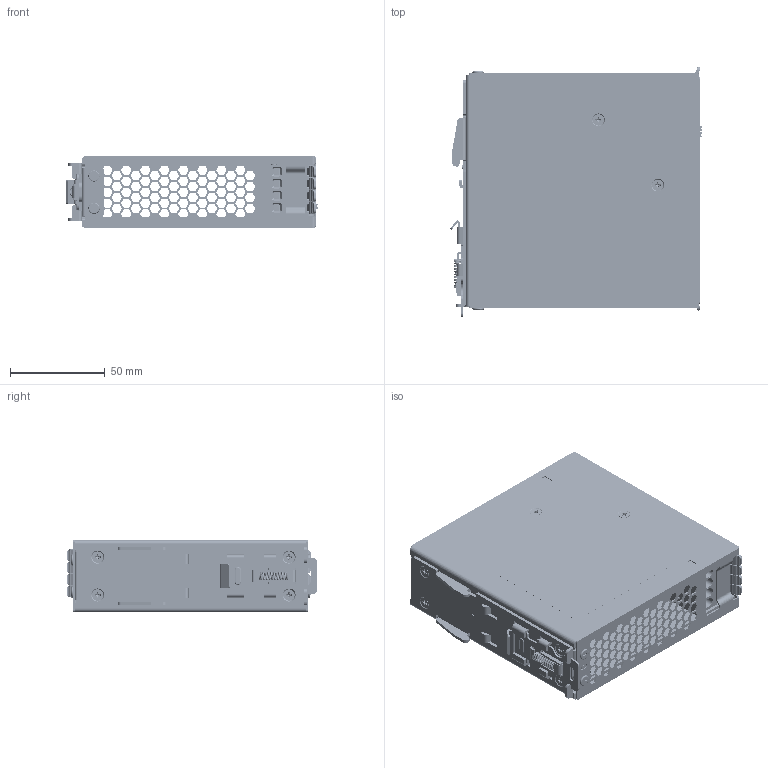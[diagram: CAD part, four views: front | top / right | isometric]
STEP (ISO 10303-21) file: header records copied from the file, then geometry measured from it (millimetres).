
FILE_DESCRIPTION((''),'2;1');
FILE_NAME('DRF-24V120W3GTA_ASM','2023-02-22T',('warud'),(''),'CREO PARAMETRIC BY PTC INC, 2015080','CREO PARAMETRIC BY PTC INC, 2015080','');
FILE_SCHEMA(('CONFIG_CONTROL_DESIGN'));
Products named in the file (36): 330840210206; 330848060102; PWB_MAINBOARD; INPUT_DCT-1994-1; MSBR-16_1_2; MSBR-15_1_2; MSBR-14_1_2; MSBR-13_1_2; MSBR-12_1_2; MSBR-11_1_2; MSBR-10_1_2; MSBR-9_1_2; MSBR-8_1_2; MSBR-3_1_2; MSBR-2_1_2; MSBR-1_1_2; MSBR-4_1_2; MSBR-7_1_2; MSBR-6_1_2; MSBR-5_1_2; 307036791G_4PIN_ASM; ASSY_INPUT_BOARD_SPRING_ASM; 307307817U; EE_LED_230025150601_GREEN; RES_VR-2; ASSY_MAINBOARD_ASM; 326820910000; 331067900202; 348730840000; 346202620000_SPRING; ASSY_LATCH_V1_ASM; 3265302300; 3105320000_L6; 3105039100; 3105220800_L5; DRF-24V120W3GTA_ASM
Assembly tree (51 placements, depth 5):
  DRF-24V120W3GTA_ASM
    330840210206
    330848060102
    ASSY_MAINBOARD_ASM
      PWB_MAINBOARD
      ASSY_INPUT_BOARD_SPRING_ASM
        INPUT_DCT-1994-1
        307036791G_4PIN_ASM  x2
          MSBR-16_1_2
          MSBR-15_1_2
          MSBR-14_1_2
          MSBR-13_1_2
          MSBR-12_1_2
          MSBR-11_1_2
          MSBR-10_1_2
          MSBR-9_1_2
          MSBR-8_1_2
          MSBR-3_1_2
          MSBR-2_1_2
          MSBR-1_1_2
          MSBR-4_1_2
          MSBR-7_1_2
          MSBR-6_1_2
          MSBR-5_1_2
      307307817U
      EE_LED_230025150601_GREEN
      RES_VR-2
    326820910000
    ASSY_LATCH_V1_ASM
      331067900202
      348730840000
      346202620000_SPRING
    3265302300
    3105320000_L6  x4
    3105039100  x4
    3105220800_L5  x5
Bounding box: 132.94 x 132.45 x 38.08 mm (x, y, z)
Volume: 110730.8 mm3; surface area: 189599.9 mm2
Topology: 70 solids, 78 shells, 13017 faces, 35171 edges, 22655 vertices
Faces by surface type: plane 7054, cylinder 3503, cone 796, extrusion 564, torus 550, bspline 534, sphere 16
Entity records: 307032 total; most frequent: CARTESIAN_POINT 74021, ORIENTED_EDGE 38606, DIRECTION 35159, EDGE_CURVE 19303, PRESENTATION_STYLE_ASSIGNMENT 17109, STYLED_ITEM 16987, CURVE_STYLE 16961, VECTOR 13829
